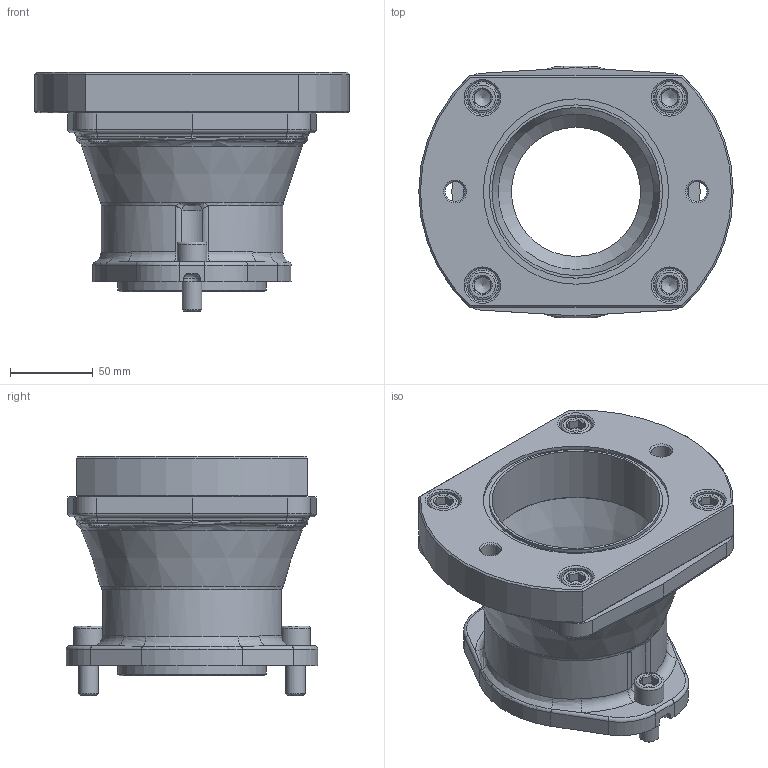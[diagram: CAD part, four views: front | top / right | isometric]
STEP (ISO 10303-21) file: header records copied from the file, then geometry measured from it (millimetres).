
FILE_DESCRIPTION(/* description */ (''),/* implementation_level */ '2;1');
FILE_NAME(/* name */ '3100000300_Semplifica_1.stp',/* time_stamp */ '2023-03-23T11:18:05+01:00',/* author */ ('marcop'),/* organization */ (''),/* preprocessor_version */ 'ST-DEVELOPER v19.2',/* originating_system */ 'Autodesk Inventor 2023',/* authorisation */ '');
FILE_SCHEMA (('AUTOMOTIVE_DESIGN { 1 0 10303 214 3 1 1 }'));
Length unit declared in the file: inch
Products named in the file (1): 3100000300_Semplifica_1
Bounding box: 190 x 152 x 144.5 mm (x, y, z)
Volume: 881381 mm3; surface area: 165467.5 mm2
Topology: 1 solids, 1 shells, 334 faces, 803 edges, 491 vertices
Faces by surface type: plane 144, cylinder 84, cone 42, torus 40, bspline 24
Full cylindrical faces by diameter (mm): 11.835 x2, 12 x6, 13 x2, 18 x6, 20 x4, 78 x1, 90 x1, 94 x1, 99 x1, 101.6 x1, 104.7 x1, 106 x1, 112 x1, 125 x3, 136 x1
Entity records: 10835 total; most frequent: CARTESIAN_POINT 2810, DIRECTION 1628, ORIENTED_EDGE 1594, EDGE_CURVE 797, AXIS2_PLACEMENT_3D 657, VERTEX_POINT 491, EDGE_LOOP 370, CIRCLE 338
